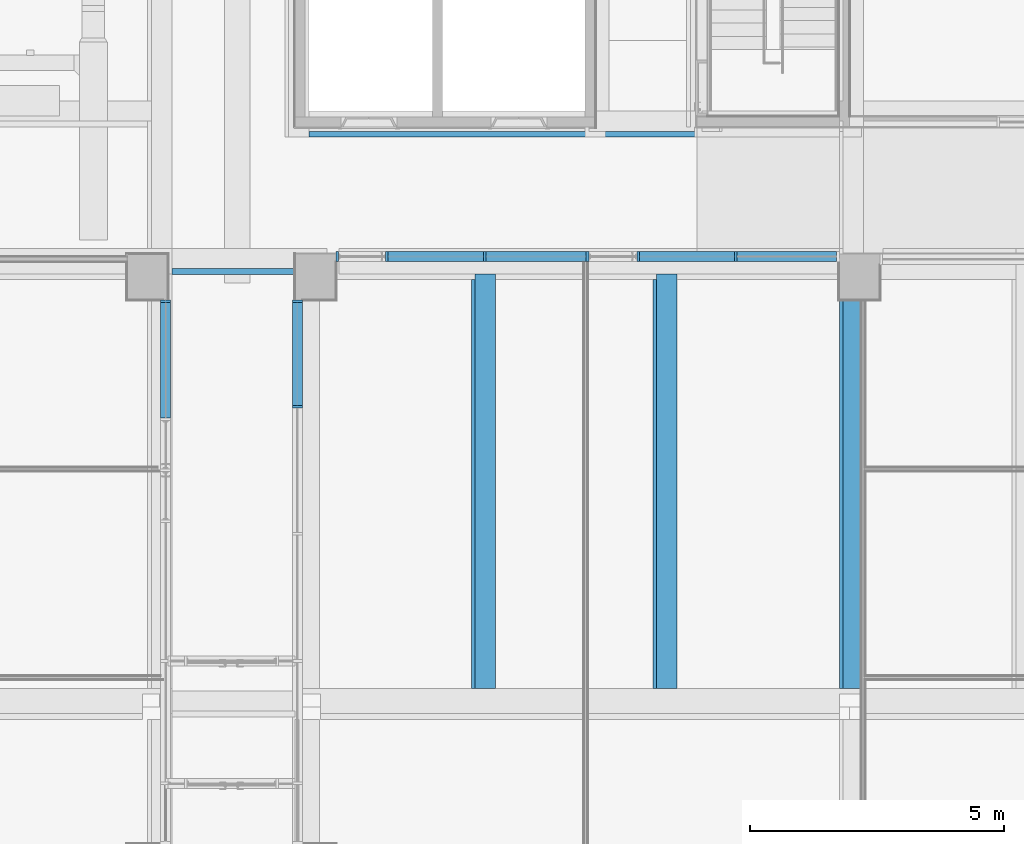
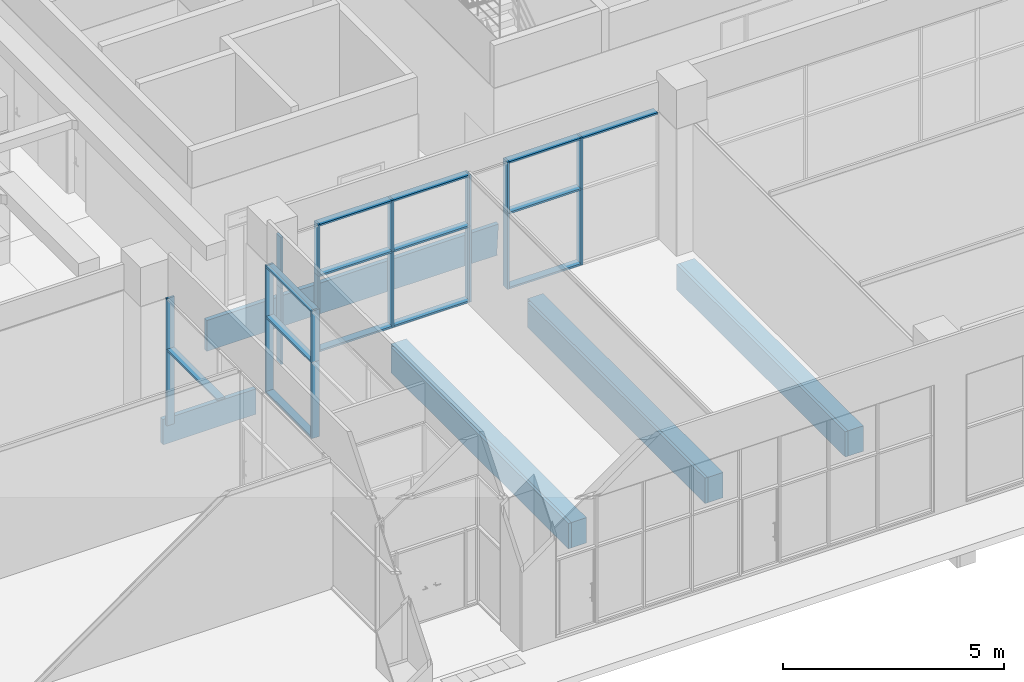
# One storey, part 7 of 100: 32 members, 8 beams, 3 elements without a shape of their own.
"""IFC2X3 building model written with IfcOpenShell, lengths in millimetres."""

from ifc_helpers import new_model, entity, si_unit, converted_unit, derived_unit, direction, frame, frame_2d, origin, origin_2d_with_axis, place, context, subcontext, project, spatial, polyline, rectangle, extrude, clip, bounded_halfspace, source, transform, mapped, material, material_list, type_object, type_shapes, element, aggregate, save


model = new_model("IFC2X3")

# Units and contexts
model_context = context("Model", 3, precision=0.01, world=origin(), true_north=direction((6.123031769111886e-17, 1.0)))
body_context = subcontext(model_context, "Body", "Model", "MODEL_VIEW")
ifc_project = project(units=[si_unit("LENGTHUNIT", "METRE", prefix="MILLI"), si_unit("AREAUNIT", "SQUARE_METRE"), si_unit("VOLUMEUNIT", "CUBIC_METRE"), converted_unit("PLANEANGLEUNIT", "DEGREE", entity("IfcRatioMeasure", 0.017453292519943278), si_unit("PLANEANGLEUNIT", "RADIAN"), dimensions=[0, 0, 0, 0, 0, 0, 0]), si_unit("MASSUNIT", "GRAM", prefix="KILO"), derived_unit("MASSDENSITYUNIT", [(si_unit("MASSUNIT", "GRAM", prefix="KILO"), 1), (si_unit("LENGTHUNIT", "METRE"), -3)]), derived_unit("MOMENTOFINERTIAUNIT", [(si_unit("LENGTHUNIT", "METRE"), 4)]), si_unit("TIMEUNIT", "SECOND"), si_unit("FREQUENCYUNIT", "HERTZ"), si_unit("THERMODYNAMICTEMPERATUREUNIT", "DEGREE_CELSIUS"), derived_unit("THERMALTRANSMITTANCEUNIT", [(si_unit("MASSUNIT", "GRAM", prefix="KILO"), 1), (si_unit("THERMODYNAMICTEMPERATUREUNIT", "KELVIN"), -1), (si_unit("TIMEUNIT", "SECOND"), -3)]), derived_unit("VOLUMETRICFLOWRATEUNIT", [(si_unit("LENGTHUNIT", "METRE"), 3), (si_unit("TIMEUNIT", "SECOND"), -1)]), derived_unit("MASSFLOWRATEUNIT", [(si_unit("MASSUNIT", "GRAM", prefix="KILO"), 1), (si_unit("TIMEUNIT", "SECOND"), -1)]), derived_unit("ROTATIONALFREQUENCYUNIT", [(si_unit("TIMEUNIT", "SECOND"), -1)]), si_unit("ELECTRICCURRENTUNIT", "AMPERE"), si_unit("ELECTRICVOLTAGEUNIT", "VOLT"), si_unit("POWERUNIT", "WATT"), si_unit("FORCEUNIT", "NEWTON", prefix="KILO"), si_unit("ILLUMINANCEUNIT", "LUX"), si_unit("LUMINOUSFLUXUNIT", "LUMEN"), si_unit("LUMINOUSINTENSITYUNIT", "CANDELA"), derived_unit("USERDEFINED", [(si_unit("MASSUNIT", "GRAM", prefix="KILO"), -1), (si_unit("LENGTHUNIT", "METRE"), -2), (si_unit("TIMEUNIT", "SECOND"), 3), (si_unit("LUMINOUSFLUXUNIT", "LUMEN"), 1)]), derived_unit("SOUNDPOWERUNIT", [(si_unit("MASSUNIT", "GRAM", prefix="KILO"), 1), (si_unit("LENGTHUNIT", "METRE"), 2), (si_unit("TIMEUNIT", "SECOND"), -3)]), derived_unit("SOUNDPRESSUREUNIT", [(si_unit("MASSUNIT", "GRAM", prefix="KILO"), 1), (si_unit("LENGTHUNIT", "METRE"), -1), (si_unit("TIMEUNIT", "SECOND"), -2)]), derived_unit("LINEARVELOCITYUNIT", [(si_unit("LENGTHUNIT", "METRE"), 1), (si_unit("TIMEUNIT", "SECOND"), -1)]), si_unit("PRESSUREUNIT", "PASCAL"), derived_unit("USERDEFINED", [(si_unit("LENGTHUNIT", "METRE"), -2), (si_unit("MASSUNIT", "GRAM", prefix="KILO"), 1), (si_unit("TIMEUNIT", "SECOND"), -2)]), derived_unit("LINEARFORCEUNIT", [(si_unit("MASSUNIT", "GRAM", prefix="KILO"), 1), (si_unit("LENGTHUNIT", "METRE"), 1), (si_unit("TIMEUNIT", "SECOND"), -2), (si_unit("LENGTHUNIT", "METRE"), -1)]), derived_unit("PLANARFORCEUNIT", [(si_unit("MASSUNIT", "GRAM", prefix="KILO"), 1), (si_unit("LENGTHUNIT", "METRE"), 1), (si_unit("TIMEUNIT", "SECOND"), -2), (si_unit("LENGTHUNIT", "METRE"), -2)])], contexts=[model_context])

# Site, building, storey
site_placement = place(None, frame((-14167.972527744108, -657.2125860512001, 0.0)))
site = spatial("IfcSite", under=ifc_project, at=site_placement, Name="Default", CompositionType="ELEMENT")
building_placement = place(site_placement, origin())
building = spatial("IfcBuilding", under=site, at=building_placement, Name="Sample Building", CompositionType="ELEMENT")
storey_placement = place(building_placement, origin())
storey = spatial("IfcBuildingStorey", under=building, at=storey_placement, Name="지상 1층", CompositionType="ELEMENT", Elevation=0.0)

# Curtain wall, member
curtain_wall_type = type_object("IfcCurtainWallType", Name="커튼월:CW112-스테인리스 스틸 커튼월", PredefinedType="NOTDEFINED")
curtain_wall_1_placement = place(storey_placement, origin())
curtain_wall_1 = element("IfcCurtainWall", 1, at=curtain_wall_1_placement, inside=storey, type_object=curtain_wall_type, Name="커튼월:CW112-스테인리스 스틸 커튼월", ObjectType="커튼월:CW112-스테인리스 스틸 커튼월")
ifc_material_1 = material(Name="<Unnamed>")
member_type_1 = type_object("IfcMemberType", Name="직사각형 멀리언:CW200-직사각형 멀리언 50x200mm", PredefinedType="MULLION", material=ifc_material_1)
shared_shape_1 = source(origin(), body_context, "Body", "SweptSolid", [
    extrude(rectangle(XDim=200.0, YDim=50.0, at=origin_2d_with_axis()), frame((-25.0, 0.0, -1420.0), z_axis=(0.0, 0.0, 1.0), x_axis=(0.0, -1.0, 0.0)), (0.0, 0.0, 1.0), 1420.0000000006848),
])
type_shapes(member_type_1, [shared_shape_1])
member_1_placement = place(curtain_wall_1_placement, frame((30112.97249113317, 12157.212617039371, 3600.0), z_axis=(0.0, 0.0, 1.0), x_axis=(0.0, 1.0, 0.0)))
member_1 = element("IfcMember", 2, at=member_1_placement, type_object=member_type_1, material=ifc_material_1, Name="직사각형 멀리언:CW200-직사각형 멀리언 50x200mm", ObjectType="직사각형 멀리언:CW200-직사각형 멀리언 50x200mm", context=body_context, shape_type="MappedRepresentation", body=[
    mapped(shared_shape_1, transform((0.0, 0.0, 0.0), scale=1.0)),
])

curtain_wall_2_placement = place(storey_placement, origin())
curtain_wall_2 = element("IfcCurtainWall", 3, at=curtain_wall_2_placement, inside=storey, type_object=curtain_wall_type, Name="커튼월:CW112-스테인리스 스틸 커튼월", ObjectType="커튼월:CW112-스테인리스 스틸 커튼월")
member_2_placement = place(curtain_wall_2_placement, frame((30867.97249113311, 13012.212586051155, 3600.0), z_axis=(0.0, 0.0, 1.0), x_axis=(-1.0, 0.0, 0.0)))
member_2 = element("IfcMember", 4, at=member_2_placement, type_object=member_type_1, material=ifc_material_1, Name="직사각형 멀리언:CW200-직사각형 멀리언 50x200mm", ObjectType="직사각형 멀리언:CW200-직사각형 멀리언 50x200mm", context=body_context, shape_type="MappedRepresentation", body=[
    mapped(shared_shape_1, transform((0.0, 0.0, 0.0), scale=1.0)),
])

# Member
member_type_2 = type_object("IfcMemberType", Name="직사각형 멀리언:CW200-직사각형 멀리언 50x200mm", PredefinedType="MULLION", material=ifc_material_1)
shared_shape_2 = source(origin(), body_context, "Body", "SweptSolid", [
    extrude(rectangle(XDim=200.0, YDim=50.0, at=origin_2d_with_axis()), frame((0.0, 0.0, -2100.0), z_axis=(0.0, 0.0, 1.0), x_axis=(0.0, -1.0, 0.0)), (0.0, 0.0, 1.0), 2100.0),
])
type_shapes(member_type_2, [shared_shape_2])
member_3_placement = place(curtain_wall_1_placement, frame((30112.972491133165, 10057.21233073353, 80.0), z_axis=(0.0, 0.0, -1.0), x_axis=(0.0, -1.0, 0.0)))
member_3 = element("IfcMember", 5, at=member_3_placement, type_object=member_type_2, material=ifc_material_1, Name="직사각형 멀리언:CW200-직사각형 멀리언 50x200mm", ObjectType="직사각형 멀리언:CW200-직사각형 멀리언 50x200mm", context=body_context, shape_type="MappedRepresentation", body=[
    mapped(shared_shape_2, transform((0.0, 0.0, 0.0), scale=1.0)),
])

member_4_placement = place(curtain_wall_2_placement, frame((31867.97249113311, 13012.212586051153, 80.0), z_axis=(0.0, 0.0, -1.0), x_axis=(1.0, 0.0, 0.0)))
member_4 = element("IfcMember", 6, at=member_4_placement, type_object=member_type_2, material=ifc_material_1, Name="직사각형 멀리언:CW200-직사각형 멀리언 50x200mm", ObjectType="직사각형 멀리언:CW200-직사각형 멀리언 50x200mm", context=body_context, shape_type="MappedRepresentation", body=[
    mapped(shared_shape_2, transform((0.0, 0.0, 0.0), scale=1.0)),
])

member_5_placement = place(curtain_wall_2_placement, frame((33792.972491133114, 13012.212586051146, 80.0), z_axis=(0.0, 0.0, -1.0), x_axis=(1.0, 0.0, 0.0)))
member_5 = element("IfcMember", 7, at=member_5_placement, type_object=member_type_2, material=ifc_material_1, Name="직사각형 멀리언:CW200-직사각형 멀리언 50x200mm", ObjectType="직사각형 멀리언:CW200-직사각형 멀리언 50x200mm", context=body_context, shape_type="MappedRepresentation", body=[
    mapped(shared_shape_2, transform((0.0, 0.0, 0.0), scale=1.0)),
])

member_6_placement = place(curtain_wall_2_placement, frame((35817.97249113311, 13012.212586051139, 80.0), z_axis=(0.0, 0.0, -1.0), x_axis=(1.0, 0.0, 0.0)))
member_6 = element("IfcMember", 8, at=member_6_placement, type_object=member_type_2, material=ifc_material_1, Name="직사각형 멀리언:CW200-직사각형 멀리언 50x200mm", ObjectType="직사각형 멀리언:CW200-직사각형 멀리언 50x200mm", context=body_context, shape_type="MappedRepresentation", body=[
    mapped(shared_shape_2, transform((0.0, 0.0, 0.0), scale=1.0)),
])

member_7_placement = place(curtain_wall_2_placement, frame((36817.97249113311, 13012.212586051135, 80.0), z_axis=(0.0, 0.0, -1.0), x_axis=(1.0, 0.0, 0.0)))
member_7 = element("IfcMember", 9, at=member_7_placement, type_object=member_type_2, material=ifc_material_1, Name="직사각형 멀리언:CW200-직사각형 멀리언 50x200mm", ObjectType="직사각형 멀리언:CW200-직사각형 멀리언 50x200mm", context=body_context, shape_type="MappedRepresentation", body=[
    mapped(shared_shape_2, transform((0.0, 0.0, 0.0), scale=1.0)),
])

member_8_placement = place(curtain_wall_2_placement, frame((38732.97249113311, 13012.21258605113, 80.0), z_axis=(0.0, 0.0, -1.0), x_axis=(1.0, 0.0, 0.0)))
member_8 = element("IfcMember", 10, at=member_8_placement, type_object=member_type_2, material=ifc_material_1, Name="직사각형 멀리언:CW200-직사각형 멀리언 50x200mm", ObjectType="직사각형 멀리언:CW200-직사각형 멀리언 50x200mm", context=body_context, shape_type="MappedRepresentation", body=[
    mapped(shared_shape_2, transform((0.0, 0.0, 0.0), scale=1.0)),
])

# Curtain wall, member
curtain_wall_3_placement = place(storey_placement, origin())
curtain_wall_3 = element("IfcCurtainWall", 11, at=curtain_wall_3_placement, inside=storey, type_object=curtain_wall_type, Name="커튼월:CW112-스테인리스 스틸 커튼월", ObjectType="커튼월:CW112-스테인리스 스틸 커튼월")
member_type_3 = type_object("IfcMemberType", Name="직사각형 멀리언:CW200-직사각형 멀리언 50x200mm", PredefinedType="MULLION", material=ifc_material_1)
shared_shape_3 = source(origin(), body_context, "Body", "SweptSolid", [
    extrude(rectangle(XDim=200.0, YDim=50.0, at=origin_2d_with_axis()), frame((-25.0, 0.0, -1420.0), z_axis=(0.0, 0.0, 1.0), x_axis=(0.0, -1.0, 0.0)), (0.0, 0.0, 1.0), 1420.0000000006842),
])
type_shapes(member_type_3, [shared_shape_3])
member_9_placement = place(curtain_wall_3_placement, frame((27522.955141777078, 12157.212617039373, 2180.0), z_axis=(0.0, 0.0, -1.0), x_axis=(0.0, 1.0, 0.0)))
member_9 = element("IfcMember", 12, at=member_9_placement, type_object=member_type_3, material=ifc_material_1, Name="직사각형 멀리언:CW200-직사각형 멀리언 50x200mm", ObjectType="직사각형 멀리언:CW200-직사각형 멀리언 50x200mm", context=body_context, shape_type="MappedRepresentation", body=[
    mapped(shared_shape_3, transform((0.0, 0.0, 0.0), scale=1.0)),
])

# Member
member_type_4 = type_object("IfcMemberType", Name="직사각형 멀리언:CW200-직사각형 멀리언 50x200mm", PredefinedType="MULLION", material=ifc_material_1)
shared_shape_4 = source(origin(), body_context, "Body", "SweptSolid", [
    extrude(rectangle(XDim=200.0, YDim=50.0, at=origin_2d_with_axis()), frame((-25.0, 0.0, -2100.0), z_axis=(0.0, 0.0, 1.0), x_axis=(0.0, -1.0, 0.0)), (0.0, 0.0, 1.0), 2099.9999999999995),
])
type_shapes(member_type_4, [shared_shape_4])
member_10_placement = place(curtain_wall_1_placement, frame((30112.97249113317, 12157.212617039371, 2180.0), z_axis=(0.0, 0.0, 1.0), x_axis=(0.0, 1.0, 0.0)))
member_10 = element("IfcMember", 13, at=member_10_placement, type_object=member_type_4, material=ifc_material_1, Name="직사각형 멀리언:CW200-직사각형 멀리언 50x200mm", ObjectType="직사각형 멀리언:CW200-직사각형 멀리언 50x200mm", context=body_context, shape_type="MappedRepresentation", body=[
    mapped(shared_shape_4, transform((0.0, 0.0, 0.0), scale=1.0)),
])

member_type_5 = type_object("IfcMemberType", Name="직사각형 멀리언:CW200-직사각형 멀리언 50x200mm", PredefinedType="MULLION", material=ifc_material_1)
shared_shape_5 = source(origin(), body_context, "Body", "SweptSolid", [
    extrude(rectangle(XDim=200.0, YDim=50.0, at=origin_2d_with_axis()), frame((0.0, 0.0, -1420.0), z_axis=(0.0, 0.0, 1.0), x_axis=(0.0, -1.0, 0.0)), (0.0, 0.0, 1.0), 1420.0000000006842),
])
type_shapes(member_type_5, [shared_shape_5])
member_11_placement = place(curtain_wall_1_placement, frame((30112.972491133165, 10057.21233073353, 2180.0), z_axis=(0.0, 0.0, -1.0), x_axis=(0.0, -1.0, 0.0)))
member_11 = element("IfcMember", 14, at=member_11_placement, type_object=member_type_5, material=ifc_material_1, Name="직사각형 멀리언:CW200-직사각형 멀리언 50x200mm", ObjectType="직사각형 멀리언:CW200-직사각형 멀리언 50x200mm", context=body_context, shape_type="MappedRepresentation", body=[
    mapped(shared_shape_5, transform((0.0, 0.0, 0.0), scale=1.0)),
])

member_12_placement = place(curtain_wall_2_placement, frame((31867.97249113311, 13012.212586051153, 2180.0), z_axis=(0.0, 0.0, -1.0), x_axis=(1.0, 0.0, 0.0)))
member_12 = element("IfcMember", 15, at=member_12_placement, type_object=member_type_5, material=ifc_material_1, Name="직사각형 멀리언:CW200-직사각형 멀리언 50x200mm", ObjectType="직사각형 멀리언:CW200-직사각형 멀리언 50x200mm", context=body_context, shape_type="MappedRepresentation", body=[
    mapped(shared_shape_5, transform((0.0, 0.0, 0.0), scale=1.0)),
])

member_13_placement = place(curtain_wall_2_placement, frame((33792.972491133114, 13012.212586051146, 2180.0), z_axis=(0.0, 0.0, -1.0), x_axis=(1.0, 0.0, 0.0)))
member_13 = element("IfcMember", 16, at=member_13_placement, type_object=member_type_5, material=ifc_material_1, Name="직사각형 멀리언:CW200-직사각형 멀리언 50x200mm", ObjectType="직사각형 멀리언:CW200-직사각형 멀리언 50x200mm", context=body_context, shape_type="MappedRepresentation", body=[
    mapped(shared_shape_5, transform((0.0, 0.0, 0.0), scale=1.0)),
])

member_14_placement = place(curtain_wall_2_placement, frame((35817.97249113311, 13012.212586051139, 2180.0), z_axis=(0.0, 0.0, -1.0), x_axis=(1.0, 0.0, 0.0)))
member_14 = element("IfcMember", 17, at=member_14_placement, type_object=member_type_5, material=ifc_material_1, Name="직사각형 멀리언:CW200-직사각형 멀리언 50x200mm", ObjectType="직사각형 멀리언:CW200-직사각형 멀리언 50x200mm", context=body_context, shape_type="MappedRepresentation", body=[
    mapped(shared_shape_5, transform((0.0, 0.0, 0.0), scale=1.0)),
])

member_15_placement = place(curtain_wall_2_placement, frame((36817.97249113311, 13012.212586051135, 2180.0), z_axis=(0.0, 0.0, -1.0), x_axis=(1.0, 0.0, 0.0)))
member_15 = element("IfcMember", 18, at=member_15_placement, type_object=member_type_5, material=ifc_material_1, Name="직사각형 멀리언:CW200-직사각형 멀리언 50x200mm", ObjectType="직사각형 멀리언:CW200-직사각형 멀리언 50x200mm", context=body_context, shape_type="MappedRepresentation", body=[
    mapped(shared_shape_5, transform((0.0, 0.0, 0.0), scale=1.0)),
])

member_16_placement = place(curtain_wall_2_placement, frame((38732.97249113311, 13012.21258605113, 2180.0), z_axis=(0.0, 0.0, -1.0), x_axis=(1.0, 0.0, 0.0)))
member_16 = element("IfcMember", 19, at=member_16_placement, type_object=member_type_5, material=ifc_material_1, Name="직사각형 멀리언:CW200-직사각형 멀리언 50x200mm", ObjectType="직사각형 멀리언:CW200-직사각형 멀리언 50x200mm", context=body_context, shape_type="MappedRepresentation", body=[
    mapped(shared_shape_5, transform((0.0, 0.0, 0.0), scale=1.0)),
])

member_type_6 = type_object("IfcMemberType", Name="직사각형 멀리언:CW200-직사각형 멀리언 50x200mm", PredefinedType="MULLION", material=ifc_material_1)
shared_shape_6 = source(origin(), body_context, "Body", "SweptSolid", [
    extrude(rectangle(XDim=200.0, YDim=50.0, at=origin_2d_with_axis()), frame((-25.0, 0.0, -2100.0), z_axis=(0.0, 0.0, 1.0), x_axis=(0.0, -1.0, 0.0)), (0.0, 0.0, 1.0), 2100.0),
])
type_shapes(member_type_6, [shared_shape_6])
member_17_placement = place(curtain_wall_3_placement, frame((27522.955141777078, 12157.212617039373, 80.0), z_axis=(0.0, 0.0, -1.0), x_axis=(0.0, 1.0, 0.0)))
member_17 = element("IfcMember", 20, at=member_17_placement, type_object=member_type_6, material=ifc_material_1, Name="직사각형 멀리언:CW200-직사각형 멀리언 50x200mm", ObjectType="직사각형 멀리언:CW200-직사각형 멀리언 50x200mm", context=body_context, shape_type="MappedRepresentation", body=[
    mapped(shared_shape_6, transform((0.0, 0.0, 0.0), scale=1.0)),
])

member_type_7 = type_object("IfcMemberType", Name="직사각형 멀리언:CW200-직사각형 멀리언 50x200mm", PredefinedType="MULLION", material=ifc_material_1)
shared_shape_7 = source(origin(), body_context, "Body", "SweptSolid", [
    extrude(rectangle(XDim=200.0, YDim=50.0, at=origin_2d_with_axis()), frame((-25.0, 0.0, -2100.0), z_axis=(0.0, 0.0, 1.0), x_axis=(0.0, -1.0, 0.0)), (0.0, 0.0, 1.0), 2099.9999999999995),
])
type_shapes(member_type_7, [shared_shape_7])
member_18_placement = place(curtain_wall_2_placement, frame((30867.97249113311, 13012.212586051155, 2180.0), z_axis=(0.0, 0.0, 1.0), x_axis=(-1.0, 0.0, 0.0)))
member_18 = element("IfcMember", 21, at=member_18_placement, type_object=member_type_7, material=ifc_material_1, Name="직사각형 멀리언:CW200-직사각형 멀리언 50x200mm", ObjectType="직사각형 멀리언:CW200-직사각형 멀리언 50x200mm", context=body_context, shape_type="MappedRepresentation", body=[
    mapped(shared_shape_7, transform((0.0, 0.0, 0.0), scale=1.0)),
])

member_type_8 = type_object("IfcMemberType", Name="직사각형 멀리언:CW200-직사각형 멀리언 50x200mm", PredefinedType="MULLION", material=ifc_material_1)
shared_shape_8 = source(origin(), body_context, "Body", "SweptSolid", [
    extrude(rectangle(XDim=200.0, YDim=50.0, at=origin_2d_with_axis()), frame((0.0, 0.0, -2274.999977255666), z_axis=(0.0, 0.0, 1.0), x_axis=(0.0, -1.0, 0.0)), (0.0, 0.0, 1.0), 2274.9999772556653),
])
type_shapes(member_type_8, [shared_shape_8])
member_19_placement = place(curtain_wall_3_placement, frame((27522.955141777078, 12107.212617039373, 2180.0), z_axis=(0.0, 1.0, 0.0), x_axis=(0.0, 0.0, 1.0)))
member_19 = element("IfcMember", 22, at=member_19_placement, type_object=member_type_8, material=ifc_material_1, Name="직사각형 멀리언:CW200-직사각형 멀리언 50x200mm", ObjectType="직사각형 멀리언:CW200-직사각형 멀리언 50x200mm", context=body_context, shape_type="MappedRepresentation", body=[
    mapped(shared_shape_8, transform((0.0, 0.0, 0.0), scale=1.0)),
])

aggregate(curtain_wall_3, [member_17, member_9, member_19])

member_type_9 = type_object("IfcMemberType", Name="직사각형 멀리언:CW200-직사각형 멀리언 50x200mm", PredefinedType="MULLION", material=ifc_material_1)
shared_shape_9 = source(origin(), body_context, "Body", "SweptSolid", [
    extrude(rectangle(XDim=200.0, YDim=50.0, at=origin_2d_with_axis()), frame((-25.0, 0.0, -2025.000286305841), z_axis=(0.0, 0.0, 1.0), x_axis=(0.0, -1.0, 0.0)), (0.0, 0.0, 1.0), 2025.0002863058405),
])
type_shapes(member_type_9, [shared_shape_9])
member_20_placement = place(curtain_wall_1_placement, frame((30112.97249113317, 12107.212617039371, 80.0), z_axis=(0.0, 1.0, 0.0), x_axis=(0.0, 0.0, -1.0)))
member_20 = element("IfcMember", 23, at=member_20_placement, type_object=member_type_9, material=ifc_material_1, Name="직사각형 멀리언:CW200-직사각형 멀리언 50x200mm", ObjectType="직사각형 멀리언:CW200-직사각형 멀리언 50x200mm", context=body_context, shape_type="MappedRepresentation", body=[
    mapped(shared_shape_9, transform((0.0, 0.0, 0.0), scale=1.0)),
])

member_type_10 = type_object("IfcMemberType", Name="직사각형 멀리언:CW200-직사각형 멀리언 50x200mm", PredefinedType="MULLION", material=ifc_material_1)
shared_shape_10 = source(origin(), body_context, "Body", "SweptSolid", [
    extrude(rectangle(XDim=200.0, YDim=50.0, at=origin_2d_with_axis()), frame((-25.0, 0.0, -2025.0002863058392), z_axis=(0.0, 0.0, 1.0), x_axis=(0.0, -1.0, 0.0)), (0.0, 0.0, 1.0), 2025.0002863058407),
])
type_shapes(member_type_10, [shared_shape_10])
member_21_placement = place(curtain_wall_1_placement, frame((30112.972491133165, 10082.212330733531, 3600.0), z_axis=(0.0, -1.0, 0.0), x_axis=(0.0, 0.0, 1.0)))
member_21 = element("IfcMember", 24, at=member_21_placement, type_object=member_type_10, material=ifc_material_1, Name="직사각형 멀리언:CW200-직사각형 멀리언 50x200mm", ObjectType="직사각형 멀리언:CW200-직사각형 멀리언 50x200mm", context=body_context, shape_type="MappedRepresentation", body=[
    mapped(shared_shape_10, transform((0.0, 0.0, 0.0), scale=1.0)),
])

member_type_11 = type_object("IfcMemberType", Name="직사각형 멀리언:CW200-직사각형 멀리언 50x200mm", PredefinedType="MULLION", material=ifc_material_1)
shared_shape_11 = source(origin(), body_context, "Body", "SweptSolid", [
    extrude(rectangle(XDim=200.0, YDim=50.0, at=origin_2d_with_axis()), frame((0.0, 0.0, -2025.0002863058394), z_axis=(0.0, 0.0, 1.0), x_axis=(0.0, -1.0, 0.0)), (0.0, 0.0, 1.0), 2025.0002863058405),
])
type_shapes(member_type_11, [shared_shape_11])
member_22_placement = place(curtain_wall_1_placement, frame((30112.972491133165, 10082.212330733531, 2180.0), z_axis=(0.0, -1.0, 0.0), x_axis=(0.0, 0.0, 1.0)))
member_22 = element("IfcMember", 25, at=member_22_placement, type_object=member_type_11, material=ifc_material_1, Name="직사각형 멀리언:CW200-직사각형 멀리언 50x200mm", ObjectType="직사각형 멀리언:CW200-직사각형 멀리언 50x200mm", context=body_context, shape_type="MappedRepresentation", body=[
    mapped(shared_shape_11, transform((0.0, 0.0, 0.0), scale=1.0)),
])

aggregate(curtain_wall_1, [member_20, member_1, member_21, member_3, member_10, member_22, member_11])

member_type_12 = type_object("IfcMemberType", Name="직사각형 멀리언:CW200-직사각형 멀리언 50x200mm", PredefinedType="MULLION", material=ifc_material_1)
shared_shape_12 = source(origin(), body_context, "Body", "SweptSolid", [
    extrude(rectangle(XDim=200.0, YDim=50.0, at=origin_2d_with_axis()), frame((-25.0, 0.0, -1960.0), z_axis=(0.0, 0.0, 1.0), x_axis=(0.0, -1.0, 0.0)), (0.0, 0.0, 1.0), 1960.0000000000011),
])
type_shapes(member_type_12, [shared_shape_12])
member_23_placement = place(curtain_wall_2_placement, frame((40717.972491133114, 13012.212586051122, 3600.0), z_axis=(1.0, 0.0, 0.0), x_axis=(0.0, 0.0, 1.0)))
member_23 = element("IfcMember", 26, at=member_23_placement, type_object=member_type_12, material=ifc_material_1, Name="직사각형 멀리언:CW200-직사각형 멀리언 50x200mm", ObjectType="직사각형 멀리언:CW200-직사각형 멀리언 50x200mm", context=body_context, shape_type="MappedRepresentation", body=[
    mapped(shared_shape_12, transform((0.0, 0.0, 0.0), scale=1.0)),
])

member_type_13 = type_object("IfcMemberType", Name="직사각형 멀리언:CW200-직사각형 멀리언 50x200mm", PredefinedType="MULLION", material=ifc_material_1)
shared_shape_13 = source(origin(), body_context, "Body", "SweptSolid", [
    extrude(rectangle(XDim=200.0, YDim=50.0, at=origin_2d_with_axis()), frame((-25.0, 0.0, -1875.0), z_axis=(0.0, 0.0, 1.0), x_axis=(0.0, -1.0, 0.0)), (0.0, 0.0, 1.0), 1874.9999999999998),
])
type_shapes(member_type_13, [shared_shape_13])
member_24_placement = place(curtain_wall_2_placement, frame((31892.97249113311, 13012.212586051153, 80.0), z_axis=(-1.0, 0.0, 0.0), x_axis=(0.0, 0.0, -1.0)))
member_24 = element("IfcMember", 27, at=member_24_placement, type_object=member_type_13, material=ifc_material_1, Name="직사각형 멀리언:CW200-직사각형 멀리언 50x200mm", ObjectType="직사각형 멀리언:CW200-직사각형 멀리언 50x200mm", context=body_context, shape_type="MappedRepresentation", body=[
    mapped(shared_shape_13, transform((0.0, 0.0, 0.0), scale=1.0)),
])

member_type_14 = type_object("IfcMemberType", Name="직사각형 멀리언:CW200-직사각형 멀리언 50x200mm", PredefinedType="MULLION", material=ifc_material_1)
shared_shape_14 = source(origin(), body_context, "Body", "SweptSolid", [
    extrude(rectangle(XDim=200.0, YDim=50.0, at=origin_2d_with_axis()), frame((0.0, 0.0, -1875.0), z_axis=(0.0, 0.0, 1.0), x_axis=(0.0, -1.0, 0.0)), (0.0, 0.0, 1.0), 1875.0000000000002),
])
type_shapes(member_type_14, [shared_shape_14])
member_25_placement = place(curtain_wall_2_placement, frame((33767.972491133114, 13012.212586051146, 2180.0), z_axis=(1.0, 0.0, 0.0), x_axis=(0.0, 0.0, 1.0)))
member_25 = element("IfcMember", 28, at=member_25_placement, type_object=member_type_14, material=ifc_material_1, Name="직사각형 멀리언:CW200-직사각형 멀리언 50x200mm", ObjectType="직사각형 멀리언:CW200-직사각형 멀리언 50x200mm", context=body_context, shape_type="MappedRepresentation", body=[
    mapped(shared_shape_14, transform((0.0, 0.0, 0.0), scale=1.0)),
])

member_type_15 = type_object("IfcMemberType", Name="직사각형 멀리언:CW200-직사각형 멀리언 50x200mm", PredefinedType="MULLION", material=ifc_material_1)
shared_shape_15 = source(origin(), body_context, "Body", "SweptSolid", [
    extrude(rectangle(XDim=200.0, YDim=50.0, at=origin_2d_with_axis()), frame((-25.0, 0.0, -1875.0), z_axis=(0.0, 0.0, 1.0), x_axis=(0.0, -1.0, 0.0)), (0.0, 0.0, 1.0), 1874.9999999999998),
])
type_shapes(member_type_15, [shared_shape_15])
member_26_placement = place(curtain_wall_2_placement, frame((33767.972491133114, 13012.212586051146, 3600.0), z_axis=(1.0, 0.0, 0.0), x_axis=(0.0, 0.0, 1.0)))
member_26 = element("IfcMember", 29, at=member_26_placement, type_object=member_type_15, material=ifc_material_1, Name="직사각형 멀리언:CW200-직사각형 멀리언 50x200mm", ObjectType="직사각형 멀리언:CW200-직사각형 멀리언 50x200mm", context=body_context, shape_type="MappedRepresentation", body=[
    mapped(shared_shape_15, transform((0.0, 0.0, 0.0), scale=1.0)),
])

member_type_16 = type_object("IfcMemberType", Name="직사각형 멀리언:CW200-직사각형 멀리언 50x200mm", PredefinedType="MULLION", material=ifc_material_1)
shared_shape_16 = source(origin(), body_context, "Body", "SweptSolid", [
    extrude(rectangle(XDim=200.0, YDim=50.0, at=origin_2d_with_axis()), frame((-25.0, 0.0, -1975.0), z_axis=(0.0, 0.0, 1.0), x_axis=(0.0, -1.0, 0.0)), (0.0, 0.0, 1.0), 1974.9999999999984),
])
type_shapes(member_type_16, [shared_shape_16])
member_27_placement = place(curtain_wall_2_placement, frame((33817.97249113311, 13012.212586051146, 80.0), z_axis=(-1.0, 0.0, 0.0), x_axis=(0.0, 0.0, -1.0)))
member_27 = element("IfcMember", 30, at=member_27_placement, type_object=member_type_16, material=ifc_material_1, Name="직사각형 멀리언:CW200-직사각형 멀리언 50x200mm", ObjectType="직사각형 멀리언:CW200-직사각형 멀리언 50x200mm", context=body_context, shape_type="MappedRepresentation", body=[
    mapped(shared_shape_16, transform((0.0, 0.0, 0.0), scale=1.0)),
])

member_type_17 = type_object("IfcMemberType", Name="직사각형 멀리언:CW200-직사각형 멀리언 50x200mm", PredefinedType="MULLION", material=ifc_material_1)
shared_shape_17 = source(origin(), body_context, "Body", "SweptSolid", [
    extrude(rectangle(XDim=200.0, YDim=50.0, at=origin_2d_with_axis()), frame((0.0, 0.0, -1975.0), z_axis=(0.0, 0.0, 1.0), x_axis=(0.0, -1.0, 0.0)), (0.0, 0.0, 1.0), 1974.999999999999),
])
type_shapes(member_type_17, [shared_shape_17])
member_28_placement = place(curtain_wall_2_placement, frame((35792.972491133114, 13012.212586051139, 2180.0), z_axis=(1.0, 0.0, 0.0), x_axis=(0.0, 0.0, 1.0)))
member_28 = element("IfcMember", 31, at=member_28_placement, type_object=member_type_17, material=ifc_material_1, Name="직사각형 멀리언:CW200-직사각형 멀리언 50x200mm", ObjectType="직사각형 멀리언:CW200-직사각형 멀리언 50x200mm", context=body_context, shape_type="MappedRepresentation", body=[
    mapped(shared_shape_17, transform((0.0, 0.0, 0.0), scale=1.0)),
])

member_type_18 = type_object("IfcMemberType", Name="직사각형 멀리언:CW200-직사각형 멀리언 50x200mm", PredefinedType="MULLION", material=ifc_material_1)
shared_shape_18 = source(origin(), body_context, "Body", "SweptSolid", [
    extrude(rectangle(XDim=200.0, YDim=50.0, at=origin_2d_with_axis()), frame((-25.0, 0.0, -1975.0), z_axis=(0.0, 0.0, 1.0), x_axis=(0.0, -1.0, 0.0)), (0.0, 0.0, 1.0), 1974.9999999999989),
])
type_shapes(member_type_18, [shared_shape_18])
member_29_placement = place(curtain_wall_2_placement, frame((35792.972491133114, 13012.212586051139, 3600.0), z_axis=(1.0, 0.0, 0.0), x_axis=(0.0, 0.0, 1.0)))
member_29 = element("IfcMember", 32, at=member_29_placement, type_object=member_type_18, material=ifc_material_1, Name="직사각형 멀리언:CW200-직사각형 멀리언 50x200mm", ObjectType="직사각형 멀리언:CW200-직사각형 멀리언 50x200mm", context=body_context, shape_type="MappedRepresentation", body=[
    mapped(shared_shape_18, transform((0.0, 0.0, 0.0), scale=1.0)),
])

member_type_19 = type_object("IfcMemberType", Name="직사각형 멀리언:CW200-직사각형 멀리언 50x200mm", PredefinedType="MULLION", material=ifc_material_1)
shared_shape_19 = source(origin(), body_context, "Body", "SweptSolid", [
    extrude(rectangle(XDim=200.0, YDim=50.0, at=origin_2d_with_axis()), frame((-25.0, 0.0, -1865.0), z_axis=(0.0, 0.0, 1.0), x_axis=(0.0, -1.0, 0.0)), (0.0, 0.0, 1.0), 1865.000000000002),
])
type_shapes(member_type_19, [shared_shape_19])
member_30_placement = place(curtain_wall_2_placement, frame((36842.97249113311, 13012.212586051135, 80.0), z_axis=(-1.0, 0.0, 0.0), x_axis=(0.0, 0.0, -1.0)))
member_30 = element("IfcMember", 33, at=member_30_placement, type_object=member_type_19, material=ifc_material_1, Name="직사각형 멀리언:CW200-직사각형 멀리언 50x200mm", ObjectType="직사각형 멀리언:CW200-직사각형 멀리언 50x200mm", context=body_context, shape_type="MappedRepresentation", body=[
    mapped(shared_shape_19, transform((0.0, 0.0, 0.0), scale=1.0)),
])

member_type_20 = type_object("IfcMemberType", Name="직사각형 멀리언:CW200-직사각형 멀리언 50x200mm", PredefinedType="MULLION", material=ifc_material_1)
shared_shape_20 = source(origin(), body_context, "Body", "SweptSolid", [
    extrude(rectangle(XDim=200.0, YDim=50.0, at=origin_2d_with_axis()), frame((0.0, 0.0, -1865.0), z_axis=(0.0, 0.0, 1.0), x_axis=(0.0, -1.0, 0.0)), (0.0, 0.0, 1.0), 1865.000000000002),
])
type_shapes(member_type_20, [shared_shape_20])
member_31_placement = place(curtain_wall_2_placement, frame((38707.972491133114, 13012.21258605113, 2180.0), z_axis=(1.0, 0.0, 0.0), x_axis=(0.0, 0.0, 1.0)))
member_31 = element("IfcMember", 34, at=member_31_placement, type_object=member_type_20, material=ifc_material_1, Name="직사각형 멀리언:CW200-직사각형 멀리언 50x200mm", ObjectType="직사각형 멀리언:CW200-직사각형 멀리언 50x200mm", context=body_context, shape_type="MappedRepresentation", body=[
    mapped(shared_shape_20, transform((0.0, 0.0, 0.0), scale=1.0)),
])

member_type_21 = type_object("IfcMemberType", Name="직사각형 멀리언:CW200-직사각형 멀리언 50x200mm", PredefinedType="MULLION", material=ifc_material_1)
shared_shape_21 = source(origin(), body_context, "Body", "SweptSolid", [
    extrude(rectangle(XDim=200.0, YDim=50.0, at=origin_2d_with_axis()), frame((-25.0, 0.0, -1865.0), z_axis=(0.0, 0.0, 1.0), x_axis=(0.0, -1.0, 0.0)), (0.0, 0.0, 1.0), 1865.0000000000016),
])
type_shapes(member_type_21, [shared_shape_21])
member_32_placement = place(curtain_wall_2_placement, frame((38707.972491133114, 13012.21258605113, 3600.0), z_axis=(1.0, 0.0, 0.0), x_axis=(0.0, 0.0, 1.0)))
member_32 = element("IfcMember", 35, at=member_32_placement, type_object=member_type_21, material=ifc_material_1, Name="직사각형 멀리언:CW200-직사각형 멀리언 50x200mm", ObjectType="직사각형 멀리언:CW200-직사각형 멀리언 50x200mm", context=body_context, shape_type="MappedRepresentation", body=[
    mapped(shared_shape_21, transform((0.0, 0.0, 0.0), scale=1.0)),
])

aggregate(curtain_wall_2, [member_23, member_2, member_18, member_24, member_25, member_4, member_12, member_26, member_27, member_28, member_5, member_13, member_29, member_6, member_14, member_30, member_31, member_7, member_15, member_32, member_8, member_16])

# Beams
ifc_material_2 = material(Name="KBIMS-콘크리트")
beam_type_1 = type_object("IfcBeamType", Name="BM111-철근콘크리트구조 보:BM110-철근 콘크리트구조 보_400 x 850_B1-1G3", PredefinedType="NOTDEFINED")
beam_1_placement = place(storey_placement, frame((27567.955141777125, 12857.212604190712, 0.0)))
element("IfcBeam", 36, at=beam_1_placement, inside=storey, type_object=beam_type_1, material=ifc_material_2, Name="BM111-철근콘크리트구조 보:BM110-철근 콘크리트구조 보_400 x 850_B1-1G3", ObjectType="BM111-철근콘크리트구조 보:BM110-철근 콘크리트구조 보_400 x 850_B1-1G3", context=body_context, shape_type="SweptSolid", body=[
    extrude(rectangle(XDim=700.0000000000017, YDim=113.86449812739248, at=origin_2d_with_axis()), frame((74.9195635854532, -143.06775093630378, -500.0), z_axis=(1.0, 0.0, 0.0), x_axis=(0.0, 0.0, -1.0)), (0.0, 0.0, 1.0), 2425.080408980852),
])
ifc_material_list = material_list([ifc_material_2, ifc_material_2])
beam_type_2 = type_object("IfcBeamType", Name="BM111-철근콘크리트구조 보:BM110-철근 콘크리트구조 보_400 x 850_B1-1G2", PredefinedType="BEAM", material=ifc_material_list)
beam_2_placement = place(storey_placement, frame((41043.24589909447, 12921.0771023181, 0.0), z_axis=(0.0, 0.0, 1.0), x_axis=(0.0, -1.0, 0.0)))
element("IfcBeam", 37, at=beam_2_placement, inside=storey, type_object=beam_type_2, material=ifc_material_2, Name="BM111-철근콘크리트구조 보:BM110-철근 콘크리트구조 보_400 x 850_B1-1G2", ObjectType="BM111-철근콘크리트구조 보:BM110-철근 콘크리트구조 보_400 x 850_B1-1G2", context=body_context, shape_type="SweptSolid", body=[
    extrude(rectangle(XDim=700.0000000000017, YDim=400.0000000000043, at=frame_2d((0.0, 4.334310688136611e-12), x_axis=(1.0, 0.0))), frame((763.9999496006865, 0.0, -500.0), z_axis=(1.0, 0.0, 0.0), x_axis=(0.0, 0.0, -1.0)), (0.0, 0.0, 1.0), 7635.99996244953),
])
beam_3_placement = place(storey_placement, frame((40967.94644879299, 12607.212617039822, 0.0), z_axis=(0.0, 0.0, 1.0), x_axis=(0.0, -1.0, 0.0)))
element("IfcBeam", 38, at=beam_3_placement, inside=storey, type_object=beam_type_2, material=ifc_material_2, Name="BM111-철근콘크리트구조 보:BM110-철근 콘크리트구조 보_400 x 850_B1-1G2", ObjectType="BM111-철근콘크리트구조 보:BM110-철근 콘크리트구조 보_400 x 850_B1-1G2", context=body_context, shape_type="SweptSolid", body=[
    extrude(rectangle(XDim=700.0000000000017, YDim=75.29945030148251, at=origin_2d_with_axis()), frame((450.0, -162.35027484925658, -500.0), z_axis=(1.0, 0.0, 0.0), x_axis=(0.0, 0.0, -1.0)), (0.0, 0.0, 1.0), 7636.13542677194),
])
beam_type_3 = type_object("IfcBeamType", Name="BM111-철근콘크리트구조 보:BM110-철근 콘크리트구조 보_400 x 800_B1-1B2", PredefinedType="NOTDEFINED")
for number, where, z_axis, x_axis in (
    (39, (33809.91256576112, 12921.0771023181, 0.0), (0.0, 0.0, 1.0), (0.0, -1.0, 0.0)),
    (40, (37376.57923242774, 12921.0771023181, 0.0), (0.0, 0.0, 1.0), (0.0, -1.0, 0.0)),
):
    element("IfcBeam", number, at=place(storey_placement, frame(where, z_axis=z_axis, x_axis=x_axis)), inside=storey, type_object=beam_type_3, material=ifc_material_2, Name="BM111-철근콘크리트구조 보:BM110-철근 콘크리트구조 보_400 x 800_B1-1B2", ObjectType="BM111-철근콘크리트구조 보:BM110-철근 콘크리트구조 보_400 x 800_B1-1B2", context=body_context, shape_type="SweptSolid", body=[
        extrude(rectangle(XDim=700.0000000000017, YDim=400.0000000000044, at=origin_2d_with_axis()), frame((250.0, 0.0, -500.0), z_axis=(1.0, 0.0, 0.0), x_axis=(0.0, 0.0, -1.0)), (0.0, 0.0, 1.0), 8149.999912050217),
    ])
for number, where, z_axis, x_axis in (
    (41, (33734.613115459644, 12807.212604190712, 0.0), (0.0, 0.0, 1.0), (0.0, -1.0, 0.0)),
    (42, (37301.279782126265, 12807.212604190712, 0.0), (0.0, 0.0, 1.0), (0.0, -1.0, 0.0)),
):
    element("IfcBeam", number, at=place(storey_placement, frame(where, z_axis=z_axis, x_axis=x_axis)), inside=storey, type_object=beam_type_3, material=ifc_material_2, Name="BM111-철근콘크리트구조 보:BM110-철근 콘크리트구조 보_400 x 800_B1-1B2", ObjectType="BM111-철근콘크리트구조 보:BM110-철근 콘크리트구조 보_400 x 800_B1-1B2", context=body_context, shape_type="SweptSolid", body=[
        extrude(rectangle(XDim=700.0000000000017, YDim=75.29945030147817, at=frame_2d((0.0, -2.163602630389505e-12), x_axis=(1.0, 0.0))), frame((250.0, -162.35027484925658, -500.0), z_axis=(1.0, 0.0, 0.0), x_axis=(0.0, 0.0, -1.0)), (0.0, 0.0, 1.0), 8036.135413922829),
    ])
beam_type_4 = type_object("IfcBeamType", Name="BM111-철근콘크리트구조 보:BM110-철근 콘크리트구조 보_400 x 850_B1-1WG1", PredefinedType="BEAM", material=ifc_material_2)
beam_4_placement = place(storey_placement, frame((37967.94644879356, 15557.212604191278, 0.0), z_axis=(0.0, 0.0, 1.0), x_axis=(-1.0, 0.0, 0.0)))
element("IfcBeam", 43, at=beam_4_placement, inside=storey, type_object=beam_type_4, material=ifc_material_2, Name="BM111-철근콘크리트구조 보:BM110-철근 콘크리트구조 보_400 x 850_B1-1WG1", ObjectType="BM111-철근콘크리트구조 보:BM110-철근 콘크리트구조 보_400 x 850_B1-1WG1", context=body_context, shape_type="SweptSolid", body=[
    clip(clip(extrude(rectangle(XDim=849.9999999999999, YDim=113.86449812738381, at=frame_2d((3.0318858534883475e-11, 5.684341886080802e-14), x_axis=(0.0, 1.0))), frame((0.0, 143.06775093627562, -425.0), z_axis=(1.0, 0.0, 0.0), x_axis=(0.0, 1.0, 0.0)), (0.0, 0.0, 1.0), 7624.7005496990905), bounded_halfspace(frame((0.0, 0.0, 0.0), z_axis=(-0.9985653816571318, 0.0, -0.05354604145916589), x_axis=(-0.05354604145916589, 0.0, 0.9985653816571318)), False, frame((0.0, 143.06775093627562, -425.0), z_axis=(1.0, 0.0, 0.0), x_axis=(0.0, 1.0, 0.0)), polyline([(56.932249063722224, 425.0), (56.93224906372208, -423.7805744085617), (-56.93224906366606, -423.78057440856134), (-56.93224906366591, 425.0), (56.932249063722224, 425.0)]))), bounded_halfspace(frame((-200.3305856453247, -200.0, -861.9634984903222), z_axis=(-0.05354604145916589, 0.0, 0.9985653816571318), x_axis=(-0.9985653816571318, 0.0, -0.05354604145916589)), False, frame((0.0, 143.06775093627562, -425.0), z_axis=(1.0, 0.0, 0.0), x_axis=(0.0, 1.0, 0.0)), polyline([(56.93224906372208, -423.780574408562), (56.93224906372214, -425.0), (-56.93224906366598, -425.0), (-56.93224906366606, -423.7805744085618), (56.93224906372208, -423.780574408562)]))),
])

save(model, "model.ifc")
